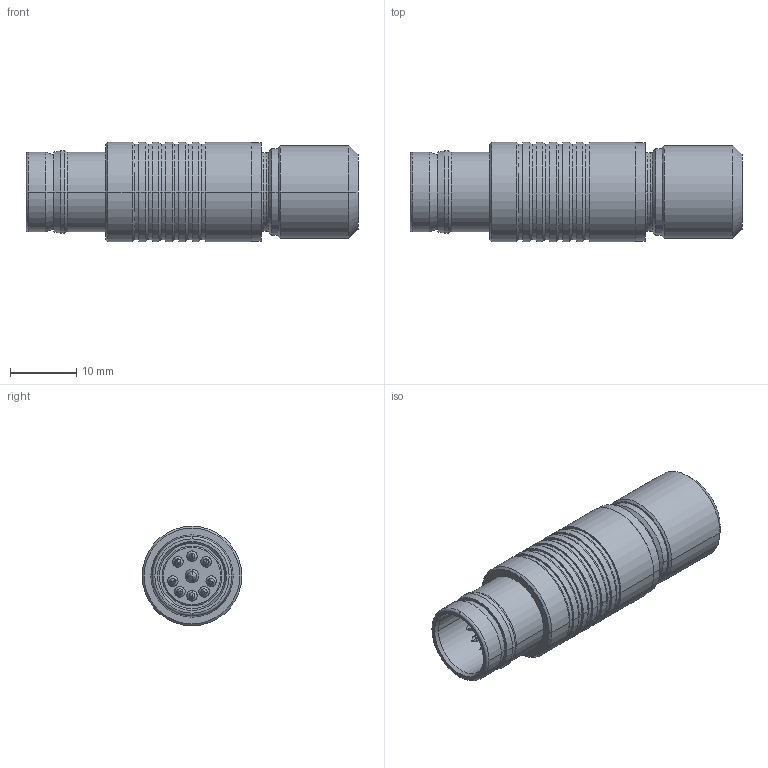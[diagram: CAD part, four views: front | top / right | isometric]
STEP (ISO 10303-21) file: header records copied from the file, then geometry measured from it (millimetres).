
FILE_DESCRIPTION((''),'2;1');
FILE_NAME('W:\214-191.stp','2004-01-23T15:21:25',('KAA'),(''),'Autodesk Inventor (R) 6.0','Autodesk Inventor (R) 6.0','');
FILE_SCHEMA(('CONFIG_CONTROL_DESIGN'));
Length unit declared in the file: millimetre
Products named in the file (1): 214-191
Bounding box: 50 x 15 x 15 mm (x, y, z)
Volume: 4939 mm3; surface area: 4704.2 mm2
Topology: 1 solids, 1 shells, 324 faces, 741 edges, 427 vertices
Faces by surface type: cylinder 142, cone 86, plane 46, bspline 40, torus 10
Entity records: 9623 total; most frequent: CARTESIAN_POINT 2245, DIRECTION 1698, ORIENTED_EDGE 1410, AXIS2_PLACEMENT_3D 708, EDGE_CURVE 705, VERTEX_POINT 427, CIRCLE 396, EDGE_LOOP 368
